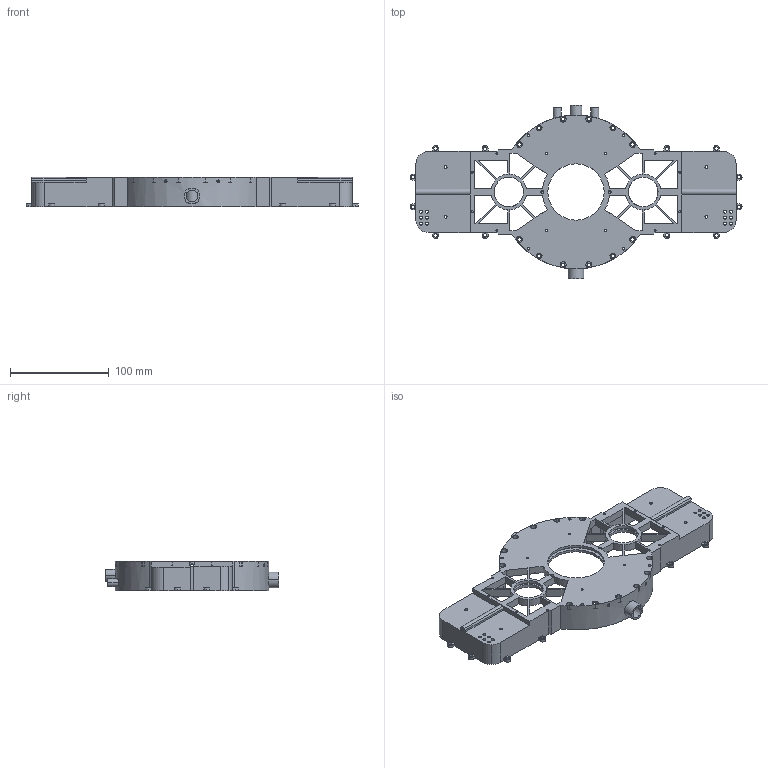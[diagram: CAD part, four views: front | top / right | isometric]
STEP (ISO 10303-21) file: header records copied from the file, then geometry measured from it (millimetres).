
FILE_DESCRIPTION(('STEP AP214'),'1');
FILE_NAME('C:/Users/mashimo/Documents/次世代エンジン/ボア4.4ｃｍ/TurboCAD/3D/tmp0.STEP','2024-05-26T06:53:24',(' '),(' '),'Spatial InterOp 3D',' ',' ');
FILE_SCHEMA(('automotive_design'));
Length unit declared in the file: millimetre
Products named in the file (1): 1
Bounding box: 336 x 175.6 x 29.5 mm (x, y, z)
Volume: 143231 mm3; surface area: 127715.3 mm2
Topology: 1 solids, 1 shells, 673 faces, 2025 edges, 1320 vertices
Faces by surface type: cylinder 423, plane 250
Entity records: 30401 total; most frequent: CARTESIAN_POINT 5667, DIRECTION 4197, ORIENTED_EDGE 4074, EDGE_CURVE 2037, AXIS2_PLACEMENT_3D 1576, VERTEX_POINT 1320, LINE 1045, VECTOR 1045
